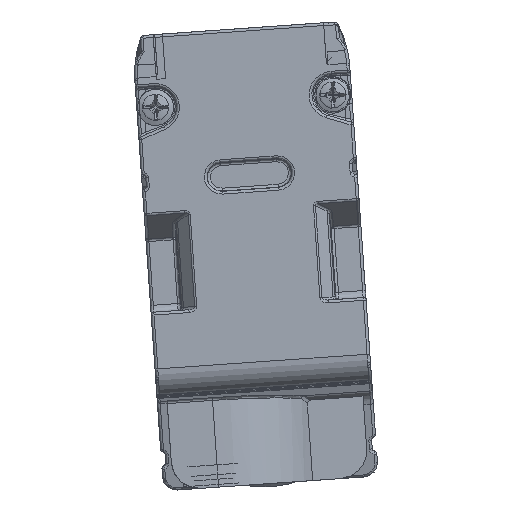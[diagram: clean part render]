
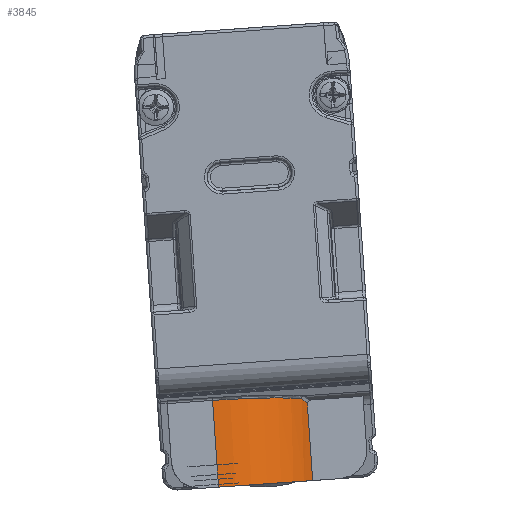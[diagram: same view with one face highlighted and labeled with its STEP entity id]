
A CAD part, front view. The second image highlights one B-rep face of the part: STEP entity #3845.
In plain terms, the highlighted cylindrical face has radius 7.5 mm (diameter 15 mm), a partial arc.
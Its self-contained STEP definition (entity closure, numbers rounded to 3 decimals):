
#273=ELLIPSE('',#23068,7.53,7.5);
#629=B_SPLINE_CURVE_WITH_KNOTS('',3,(#38487,#38488,#38489,#38490,#38491,
#38492,#38493),.UNSPECIFIED.,.F.,.F.,(4,3,4),(0.,0.485,1.),.UNSPECIFIED.);
#1446=CYLINDRICAL_SURFACE('',#23070,7.5);
#2559=CIRCLE('',#23069,7.5);
#3845=ADVANCED_FACE('',(#5156),#1446,.T.);
#5156=FACE_OUTER_BOUND('',#6259,.T.);
#6259=EDGE_LOOP('',(#9845,#9846,#9847,#9848,#9849));
#9845=ORIENTED_EDGE('',*,*,#16768,.T.);
#9846=ORIENTED_EDGE('',*,*,#16769,.T.);
#9847=ORIENTED_EDGE('',*,*,#16770,.T.);
#9848=ORIENTED_EDGE('',*,*,#16771,.T.);
#9849=ORIENTED_EDGE('',*,*,#16772,.F.);
#13720=VERTEX_POINT('',#38485);
#13721=VERTEX_POINT('',#38486);
#13722=VERTEX_POINT('',#38494);
#13723=VERTEX_POINT('',#38496);
#13724=VERTEX_POINT('',#38498);
#16768=EDGE_CURVE('',#13720,#13721,#19273,.T.);
#16769=EDGE_CURVE('',#13721,#13722,#629,.T.);
#16770=EDGE_CURVE('',#13722,#13723,#273,.T.);
#16771=EDGE_CURVE('',#13723,#13724,#19274,.T.);
#16772=EDGE_CURVE('',#13720,#13724,#2559,.T.);
#19273=LINE('',#38484,#20887);
#19274=LINE('',#38497,#20888);
#20887=VECTOR('',#27819,1.);
#20888=VECTOR('',#27822,1.);
#23068=AXIS2_PLACEMENT_3D('',#38495,#27820,#27821);
#23069=AXIS2_PLACEMENT_3D('',#38499,#27823,#27824);
#23070=AXIS2_PLACEMENT_3D('',#38500,#27825,#27826);
#27819=DIRECTION('',(-0.07,0.,0.998));
#27820=DIRECTION('',(0.069,-0.089,-0.994));
#27821=DIRECTION('',(0.006,0.996,-0.089));
#27822=DIRECTION('',(0.07,0.,-0.998));
#27823=DIRECTION('',(0.07,0.,-0.998));
#27824=DIRECTION('',(0.998,0.,0.07));
#27825=DIRECTION('',(0.07,0.,-0.998));
#27826=DIRECTION('',(0.,-1.,0.));
#38484=CARTESIAN_POINT('',(-40.701,-860.597,14.888));
#38485=CARTESIAN_POINT('',(-40.701,-860.597,14.888));
#38486=CARTESIAN_POINT('',(-41.088,-860.597,20.435));
#38487=CARTESIAN_POINT('',(-41.088,-860.597,20.435));
#38488=CARTESIAN_POINT('',(-41.139,-860.686,20.528));
#38489=CARTESIAN_POINT('',(-41.198,-860.793,20.603));
#38490=CARTESIAN_POINT('',(-41.263,-860.905,20.654));
#38491=CARTESIAN_POINT('',(-41.332,-861.024,20.708));
#38492=CARTESIAN_POINT('',(-41.408,-861.152,20.738));
#38493=CARTESIAN_POINT('',(-41.487,-861.278,20.743));
#38494=CARTESIAN_POINT('',(-41.487,-861.278,20.743));
#38495=CARTESIAN_POINT('',(-47.816,-857.318,19.944));
#38496=CARTESIAN_POINT('',(-47.863,-864.818,20.616));
#38497=CARTESIAN_POINT('',(-47.667,-864.818,17.815));
#38498=CARTESIAN_POINT('',(-47.43,-864.818,14.418));
#38499=CARTESIAN_POINT('',(-47.43,-857.318,14.418));
#38500=CARTESIAN_POINT('',(-52.434,-857.318,85.982));
